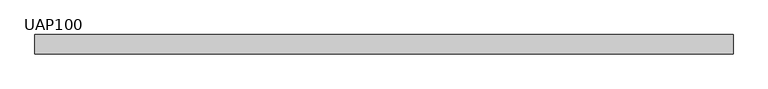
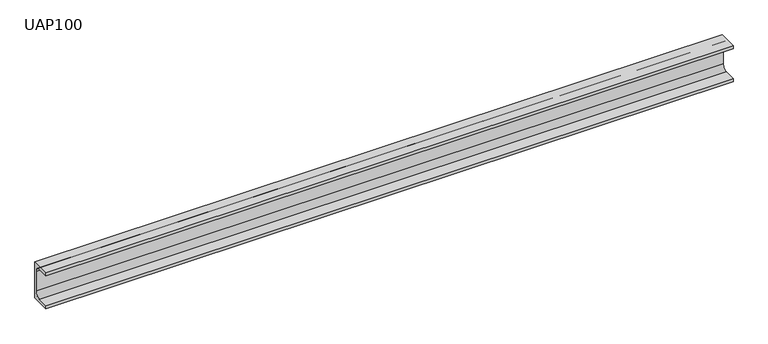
"""IFC4 building model written with IfcOpenShell, lengths in millimetres: beam geometry, U-Fers a ailes parallèles : UAP100."""

import ifcopenshell
import ifcopenshell.guid

model = None  # the IFC model being written
_history = None  # IfcOwnerHistory: only IFC2X3 demands one
_inside = {}  # id of a spatial element -> (the spatial element, [elements in it])
_under = {}  # id of a project, library or spatial element -> (it, [spatial elements below it])
_declared = {}  # id of a project -> (the project, [libraries it declares])
_typed = {}  # id of a type object -> (the type object, [elements of that type])
_made_of = {}  # id of a material, layer set ... -> (it, [elements and type objects made of it])


def new_model(schema):
    """Start an empty IFC model of exactly this schema.

    Asked for "IFC4X3", IfcOpenShell would pick the latest addendum, in which some entities
    have other attributes; the version numbers below select the first issue.
    IFC2X3 requires an IfcOwnerHistory on every rooted entity: one is made here for all.
    """
    global model, _history
    if schema == "IFC4X3":
        model = ifcopenshell.file(schema_version=(4, 3, 0, 0))
    else:
        model = ifcopenshell.file(schema=schema)
    _inside.clear()
    _under.clear()
    _declared.clear()
    _typed.clear()
    _made_of.clear()
    _history = None
    if model.schema == "IFC2X3":
        org = make("IfcOrganization", Name="unknown")
        user = make(
            "IfcPersonAndOrganization",
            ThePerson=make("IfcPerson", FamilyName="unknown"),
            TheOrganization=org,
        )
        app = make(
            "IfcApplication",
            ApplicationDeveloper=org,
            Version="unknown",
            ApplicationFullName="unknown",
            ApplicationIdentifier="unknown",
        )
        _history = make(
            "IfcOwnerHistory",
            OwningUser=user,
            OwningApplication=app,
            ChangeAction="ADDED",
            CreationDate=0,
        )
    return model


def make(cls, **values):
    """One entity of the class cls with the attributes given. An attribute that is None is left unset."""
    return model.create_entity(
        cls, **{name: value for name, value in values.items() if value is not None}
    )


def rooted(cls, **values):
    """An entity with a GlobalId (a new one), such as an element, a storey or a relation."""
    return make(cls, GlobalId=ifcopenshell.guid.new(), OwnerHistory=_history, **values)


def si_unit(unit_type, name, prefix=None):
    """IfcSIUnit, for example si_unit("LENGTHUNIT", "METRE", prefix="MILLI")."""
    return make("IfcSIUnit", UnitType=unit_type, Prefix=prefix, Name=name)


def assignment(units):
    """IfcUnitAssignment: the units of a project."""
    return None if units is None else make("IfcUnitAssignment", Units=units)


def point(xyz):
    """IfcCartesianPoint."""
    return None if xyz is None else make("IfcCartesianPoint", Coordinates=xyz)


def direction(xyz):
    """IfcDirection."""
    return None if xyz is None else make("IfcDirection", DirectionRatios=xyz)


def frame(location, z_axis=None, x_axis=None):
    """IfcAxis2Placement3D, a coordinate frame: its origin and axes. An axis left out is left unset."""
    return make(
        "IfcAxis2Placement3D",
        Location=point(location),
        Axis=direction(z_axis),
        RefDirection=direction(x_axis),
    )


def frame_2d(location, x_axis=None):
    """IfcAxis2Placement2D, a coordinate frame in the plane: its origin and x axis."""
    return make(
        "IfcAxis2Placement2D", Location=point(location), RefDirection=direction(x_axis)
    )


def origin():
    """The frame at (0, 0, 0) with its axes left unset."""
    return frame((0.0, 0.0, 0.0))


def place(relative_to, where):
    """IfcLocalPlacement: puts the frame where relative to a parent placement (None: the world)."""
    return make(
        "IfcLocalPlacement", PlacementRelTo=relative_to, RelativePlacement=where
    )


def context(
    kind, dimensions, precision=None, world=None, true_north=None, identifier=None
):
    """IfcGeometricRepresentationContext, for example the 3D "Model" context."""
    return make(
        "IfcGeometricRepresentationContext",
        ContextIdentifier=identifier,
        ContextType=kind,
        CoordinateSpaceDimension=dimensions,
        Precision=precision,
        WorldCoordinateSystem=world,
        TrueNorth=true_north,
    )


def project(units=None, contexts=None):
    """IfcProject with its units and contexts."""
    return rooted(
        "IfcProject",
        Name="project",
        RepresentationContexts=contexts,
        UnitsInContext=assignment(units),
    )


def spatial(cls, under=None, at=None, **own):
    """A site, building, storey or space (cls), placed at a placement, below another one or the project."""
    s = rooted(cls, ObjectPlacement=at, **own)
    if under is not None:
        _under.setdefault(under.id(), (under, []))[1].append(s)
    return s


def polyline(points):
    """IfcPolyline through the points."""
    return make("IfcPolyline", Points=[point(p) for p in points])


def circle_curve(where, radius):
    """IfcCircle in the frame where."""
    return make("IfcCircle", Position=where, Radius=radius)


def trimmed(basis, trim1, trim2, sense, master):
    """IfcTrimmedCurve: the piece of a basis curve between two trims."""
    return make(
        "IfcTrimmedCurve",
        BasisCurve=basis,
        Trim1=trim1,
        Trim2=trim2,
        SenseAgreement=sense,
        MasterRepresentation=master,
    )


def segment(curve, same_sense, transition):
    """IfcCompositeCurveSegment."""
    return make(
        "IfcCompositeCurveSegment",
        Transition=transition,
        SameSense=same_sense,
        ParentCurve=curve,
    )


def composite_curve(segments, self_intersect=None):
    """IfcCompositeCurve: segments joined end to end."""
    return make("IfcCompositeCurve", Segments=segments, SelfIntersect=self_intersect)


def outline(outer, holes=None, kind="AREA"):
    """IfcArbitraryClosedProfileDef: a profile drawn as a closed curve; with holes, ...WithVoids."""
    if holes is None:
        return make("IfcArbitraryClosedProfileDef", ProfileType=kind, OuterCurve=outer)
    return make(
        "IfcArbitraryProfileDefWithVoids",
        ProfileType=kind,
        OuterCurve=outer,
        InnerCurves=holes,
    )


def extrude(swept, where, along, depth):
    """IfcExtrudedAreaSolid: the profile swept, set in the frame where, extruded along a direction by depth."""
    return make(
        "IfcExtrudedAreaSolid",
        SweptArea=swept,
        Position=where,
        ExtrudedDirection=direction(along),
        Depth=depth,
    )


def shape(context_of_items, identifier, shape_type, items):
    """IfcShapeRepresentation: the items that make up one representation, for example the "Body"."""
    return make(
        "IfcShapeRepresentation",
        ContextOfItems=context_of_items,
        RepresentationIdentifier=identifier,
        RepresentationType=shape_type,
        Items=items,
    )


def source(mapping_origin, context_of_items, identifier, shape_type, items):
    """IfcRepresentationMap: a shape defined once, which mapped items show again and again."""
    return make(
        "IfcRepresentationMap",
        MappingOrigin=mapping_origin,
        MappedRepresentation=shape(context_of_items, identifier, shape_type, items),
    )


def transform(
    local_origin,
    x_axis=None,
    y_axis=None,
    z_axis=None,
    scale=None,
    scale2=None,
    scale3=None,
    uniform=True,
):
    """IfcCartesianTransformationOperator3D, or its non-uniform kind. x_axis, y_axis, z_axis: its Axis1, 2, 3."""
    if uniform:
        return make(
            "IfcCartesianTransformationOperator3D",
            Axis1=direction(x_axis),
            Axis2=direction(y_axis),
            LocalOrigin=point(local_origin),
            Scale=scale,
            Axis3=direction(z_axis),
        )
    return make(
        "IfcCartesianTransformationOperator3DnonUniform",
        Axis1=direction(x_axis),
        Axis2=direction(y_axis),
        LocalOrigin=point(local_origin),
        Scale=scale,
        Axis3=direction(z_axis),
        Scale2=scale2,
        Scale3=scale3,
    )


def mapped(mapping_source, mapping_target):
    """IfcMappedItem: shows the shape of a source again, moved by a transform."""
    return make(
        "IfcMappedItem", MappingSource=mapping_source, MappingTarget=mapping_target
    )


def made_of(thing, what):
    """Note that an element or type object is made of a material, layer set ...; save() writes the relation."""
    if what is not None:
        _made_of.setdefault(what.id(), (what, []))[1].append(thing)
    return thing


def element(
    cls,
    number,
    at=None,
    inside=None,
    cuts=None,
    type_object=None,
    material=None,
    context=None,
    identifier="Body",
    shape_type=None,
    held_by="IfcProductDefinitionShape",
    body=None,
    shapes=None,
    **own,
):
    """One element of the class cls, such as IfcWall. Its Tag is "e" and its number.

    at: its placement. inside: the storey or other place that contains it. cuts: it is an
    opening in that element (IfcRelVoidsElement). A single representation is given by context,
    identifier, shape_type and body (its items); several are given by shapes. held_by: the class
    of the entity that holds the representations. save() writes the other relations.
    """
    e = rooted(cls, Tag="e%d" % number, ObjectPlacement=at, **own)
    if body is not None:
        shapes = [shape(context, identifier, shape_type, body)]
    if shapes is not None:
        e.Representation = make(held_by, Representations=shapes)
    if inside is not None:
        _inside.setdefault(inside.id(), (inside, []))[1].append(e)
    if cuts is not None:
        rooted(
            "IfcRelVoidsElement", RelatingBuildingElement=cuts, RelatedOpeningElement=e
        )
    if type_object is not None:
        _typed.setdefault(type_object.id(), (type_object, []))[1].append(e)
    return made_of(e, material)


def aggregate(whole, parts):
    """IfcRelAggregates: a whole, such as a stair, and the parts it consists of."""
    return rooted("IfcRelAggregates", RelatingObject=whole, RelatedObjects=parts)


def save(model, path):
    """Write the relations noted so far, then the file.

    IfcRelAggregates (storeys below a building ...), IfcRelContainedInSpatialStructure (elements
    in a storey), IfcRelDefinesByType, IfcRelAssociatesMaterial and IfcRelDeclares: one each for
    every whole, place, type object, material and project.
    """
    for whole, parts in _under.values():
        aggregate(whole, parts)
    for where, things in _inside.values():
        rooted(
            "IfcRelContainedInSpatialStructure",
            RelatedElements=things,
            RelatingStructure=where,
        )
    for kind, things in _typed.values():
        rooted("IfcRelDefinesByType", RelatedObjects=things, RelatingType=kind)
    for what, things in _made_of.values():
        rooted("IfcRelAssociatesMaterial", RelatedObjects=things, RelatingMaterial=what)
    for by, libraries in _declared.values():
        rooted("IfcRelDeclares", RelatingContext=by, RelatedDefinitions=libraries)
    model.write(path)


def uap100_3153b6fd(model_context):
    return source(origin(), model_context, "Body", "SweptSolid", [
        extrude(outline(composite_curve([segment(polyline([(17.0, 50.0), (17.0, -50.0), (-33.0, -50.0), (-33.0, -41.5), (-2.5, -41.5)]), True, "CONTINUOUS"), segment(trimmed(circle_curve(frame_2d((-2.5, -27.5)), 14.0), [point((-2.5, -41.5))], [point((11.5, -27.5))], True, "CARTESIAN"), True, "CONTINUOUS"), segment(polyline([(11.5, -27.5), (11.5, 27.5)]), True, "CONTINUOUS"), segment(trimmed(circle_curve(frame_2d((-2.5, 27.5)), 14.0), [point((11.5, 27.5))], [point((-2.5, 41.5))], True, "CARTESIAN"), True, "CONTINUOUS"), segment(polyline([(-2.5, 41.5), (-33.0, 41.5), (-33.0, 50.0), (17.0, 50.0)]), True, "CONTINUOUS")], self_intersect=False)), frame((-934.8811775, 0.0, 0.0), z_axis=(1.0, 0.0, 0.0), x_axis=(0.0, 1.0, 0.0)), (0.0, 0.0, 1.0), 1814.8811775),
    ])


if __name__ == "__main__":
    model = new_model("IFC4")
    model_context = context("Model", 3, world=origin())
    ifc_project = project(units=[si_unit("LENGTHUNIT", "METRE", prefix="MILLI")], contexts=[model_context])
    site = spatial("IfcSite", under=ifc_project)
    building = spatial("IfcBuilding", under=site)
    placement = place(None, origin())
    uap100_shape = uap100_3153b6fd(model_context)
    element("IfcBeam", 1, ObjectType="U-Fers a ailes parallèles : UAP100", at=placement, inside=building, context=model_context, shape_type="MappedRepresentation", body=[
        mapped(uap100_shape, transform((0.0, 0.0, 0.0), x_axis=(1.0, 0.0, 0.0), y_axis=(0.0, 1.0, 0.0), z_axis=(0.0, 0.0, 1.0))),
    ])
    save(model, "model.ifc")
